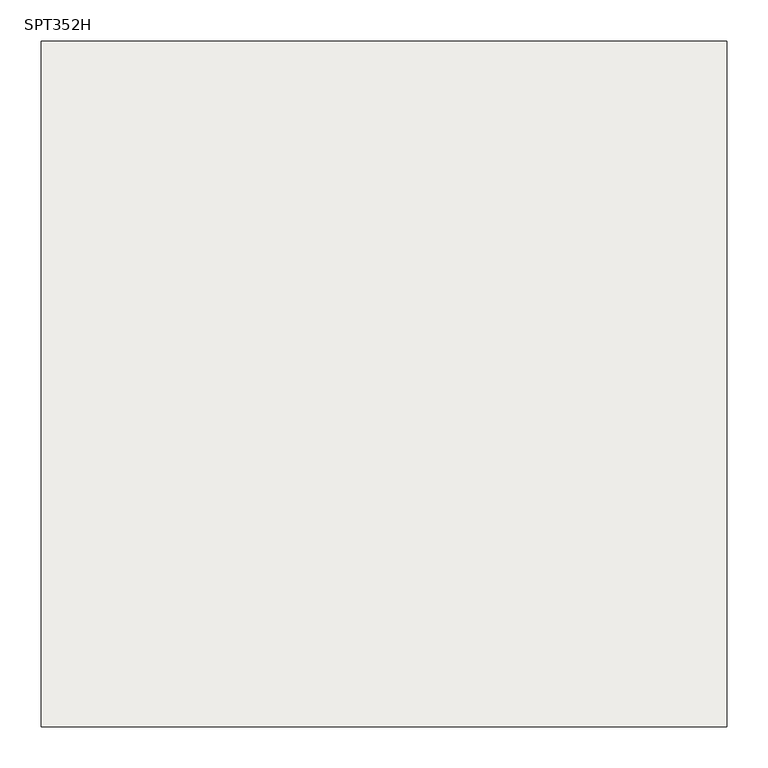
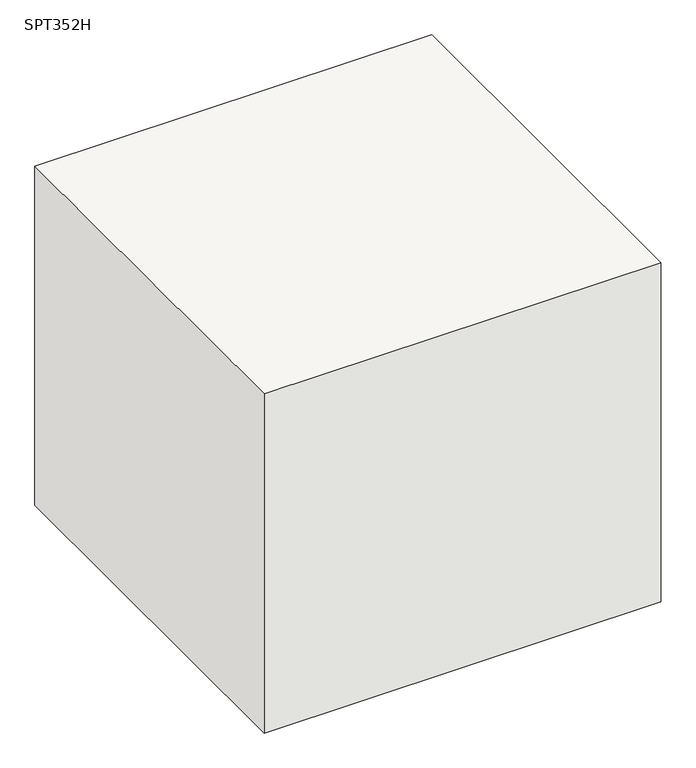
"""IFC4 building model written with IfcOpenShell, lengths in millimetres: slab geometry, 柱形_SPT : SPT352H."""

from ifc_helpers import new_model, si_unit, frame, origin, place, context, project, spatial, polyline, outline, extrude, source, transform, mapped, element, save


def spt352h_9df404c8(model_context):
    return source(origin(), model_context, "Body", "SweptSolid", [
        extrude(outline(polyline([(415.0, 415.0), (415.0, -415.0), (-415.0, -415.0), (-415.0, 415.0), (415.0, 415.0)])), frame((0.0, 0.0, -750.0), z_axis=(0.0, 0.0, 1.0), x_axis=(1.0, 0.0, 0.0)), (0.0, 0.0, 1.0), 750.0),
    ])


if __name__ == "__main__":
    model = new_model("IFC4")
    model_context = context("Model", 3, world=origin())
    ifc_project = project(units=[si_unit("LENGTHUNIT", "METRE", prefix="MILLI")], contexts=[model_context])
    site = spatial("IfcSite", under=ifc_project)
    building = spatial("IfcBuilding", under=site)
    placement = place(None, origin())
    spt352h_shape = spt352h_9df404c8(model_context)
    element("IfcSlab", 1, ObjectType="柱形_SPT : SPT352H", at=placement, inside=building, context=model_context, shape_type="MappedRepresentation", body=[
        mapped(spt352h_shape, transform((0.0, 0.0, 0.0), x_axis=(1.0, 0.0, 0.0), y_axis=(0.0, 1.0, 0.0), z_axis=(0.0, 0.0, 1.0))),
    ])
    save(model, "model.ifc")
